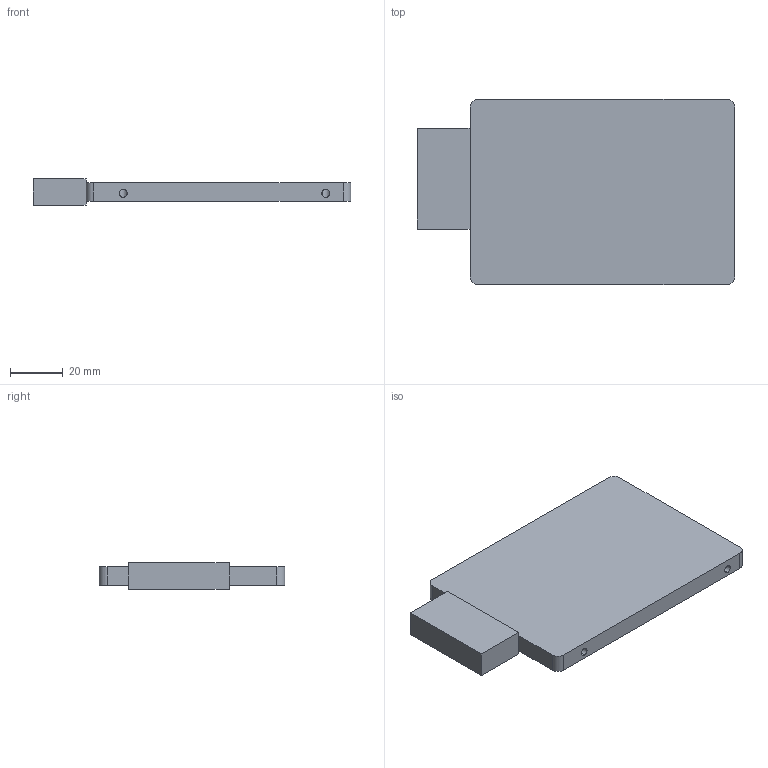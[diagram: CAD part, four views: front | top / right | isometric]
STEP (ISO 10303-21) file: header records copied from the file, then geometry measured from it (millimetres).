
FILE_DESCRIPTION (( 'STEP AP214' ), '1' );
FILE_NAME ('SSD.STEP', '2015-02-27T04:09:08', ( '' ), ( '' ), '', '', '' );
FILE_SCHEMA (( '' ));
Length unit declared in the file: millimetre
Products named in the file (1): SSD
Bounding box: 120 x 70 x 10 mm (x, y, z)
Volume: 56292 mm3; surface area: 18763 mm2
Topology: 1 solids, 1 shells, 44 faces, 110 edges, 72 vertices
Faces by surface type: plane 24, cylinder 20
Entity records: 1449 total; most frequent: CARTESIAN_POINT 353, DIRECTION 224, ORIENTED_EDGE 220, EDGE_CURVE 110, AXIS2_PLACEMENT_3D 83, VERTEX_POINT 72, VECTOR 58, LINE 58
